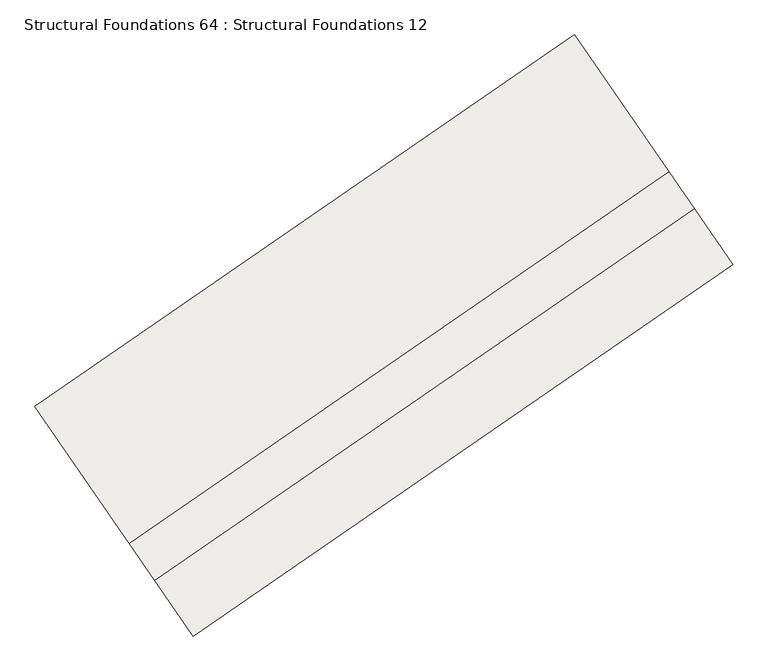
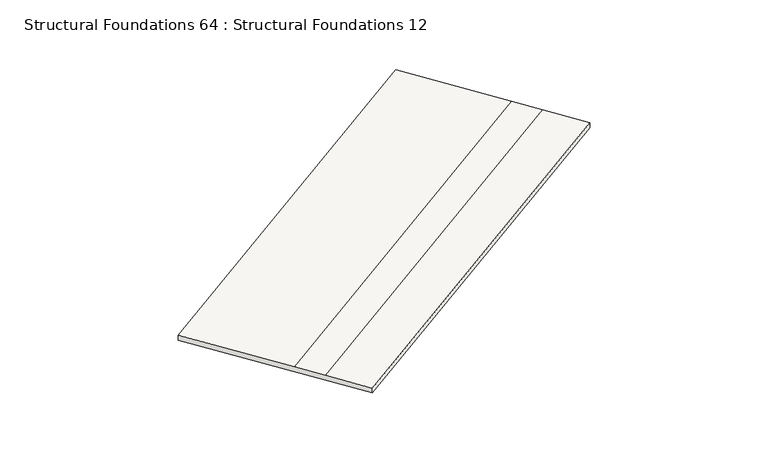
"""IFC4 building model written with IfcOpenShell, lengths in millimetres: slab geometry, Structural Foundations 64 : Structural Foundations 12."""

from ifc_helpers import new_model, si_unit, origin, place, context, project, spatial, faceted_brep, source, transform, mapped, element, save


def structural_foundations_64_structural_foundations_12_8f5f34b1(model_context):
    return source(origin(), model_context, "Body", "Brep", [
        faceted_brep([(-331926.864015, -433030.3594203, 633970.9999996), (-331416.3224008, -433771.5390622, 633970.9999995), (-331416.3224008, -433771.5390622, 633870.9999995), (-333515.2157017, -430724.4672036, 633871.0), (-333515.2157017, -430724.4672036, 633971.0), (-332264.3887478, -432540.3573251, 633970.9999997), (-339091.6005474, -437965.5950197, 633898.0000001), (-339429.1252802, -437475.5929245, 633898.0000002), (-340679.9522341, -435659.702803, 633898.0000005), (-340679.9522341, -435659.702803, 633798.0000005), (-338581.0589332, -438706.7746616, 633797.9999999), (-338581.0589332, -438706.7746616, 633897.9999999)], [[[0, 1, 2, 3, 4, 5]], [[6, 7, 8, 9, 10, 11]], [[8, 7, 5, 4]], [[7, 6, 0, 5]], [[6, 11, 1, 0]], [[10, 9, 3, 2]], [[11, 10, 2, 1]], [[9, 8, 4, 3]]]),
    ])


if __name__ == "__main__":
    model = new_model("IFC4")
    model_context = context("Model", 3, world=origin())
    ifc_project = project(units=[si_unit("LENGTHUNIT", "METRE", prefix="MILLI")], contexts=[model_context])
    site = spatial("IfcSite", under=ifc_project)
    building = spatial("IfcBuilding", under=site)
    placement = place(None, origin())
    structural_foundations_64_structural_foundations_12_shape = structural_foundations_64_structural_foundations_12_8f5f34b1(model_context)
    element("IfcSlab", 1, ObjectType="Structural Foundations 64 : Structural Foundations 12", at=placement, inside=building, context=model_context, shape_type="MappedRepresentation", body=[
        mapped(structural_foundations_64_structural_foundations_12_shape, transform((0.0, 0.0, 0.0), x_axis=(1.0, 0.0, 0.0), y_axis=(0.0, 1.0, 0.0), z_axis=(0.0, 0.0, 1.0))),
    ])
    save(model, "model.ifc")
